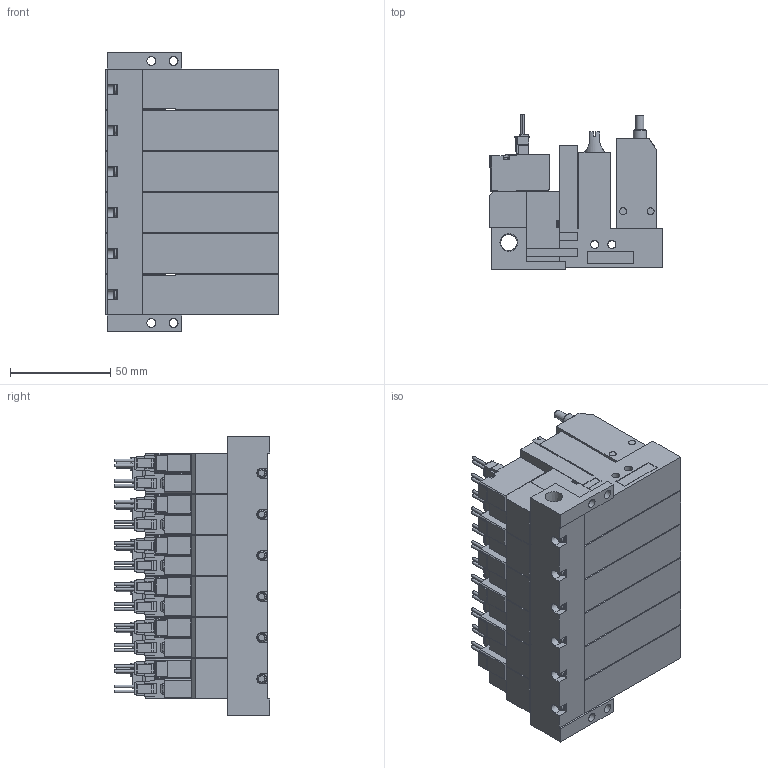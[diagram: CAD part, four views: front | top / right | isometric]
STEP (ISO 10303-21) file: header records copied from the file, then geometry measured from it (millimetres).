
FILE_DESCRIPTION(('STEP AP203'),'1');
FILE_NAME('ABS_ABPL5ALR606.stp','2025-02-19T02:13:10',(' '),(' '),'Spatial InterOp 3D',' ',' ');
FILE_SCHEMA(('CONFIG_CONTROL_DESIGN'));
Length unit declared in the file: millimetre
Products named in the file (5): BMC22M※※※※ABS_ABPL5ALR606; Solenoid valve A; Pressure sensor ABSL; Unit L; Base MR60R
Assembly tree (19 placements, depth 2):
  BMC22M※※※※ABS_ABPL5ALR606
    Solenoid valve A  x6
    Pressure sensor ABSL  x6
    Unit L  x6
    Base MR60R
Bounding box: 86.6 x 77.45 x 138.5 mm (x, y, z)
Volume: 540181.4 mm3; surface area: 149371 mm2
Topology: 19 solids, 19 shells, 2271 faces, 6083 edges, 4006 vertices
Faces by surface type: plane 1922, cylinder 281, cone 44, torus 24
Full cylindrical faces by diameter (mm): 1.4 x24, 2.5 x6, 3 x24, 3.5 x36, 3.6 x6, 4 x18, 4.134 x6, 4.5 x4, 5.2 x6, 6 x6, 6.5 x6, 6.6 x6, 8.279 x1
Entity records: 14714 total; most frequent: CARTESIAN_POINT 2806, DIRECTION 2350, ORIENTED_EDGE 2286, EDGE_CURVE 1143, LINE 918, VECTOR 918, VERTEX_POINT 802, AXIS2_PLACEMENT_3D 716
